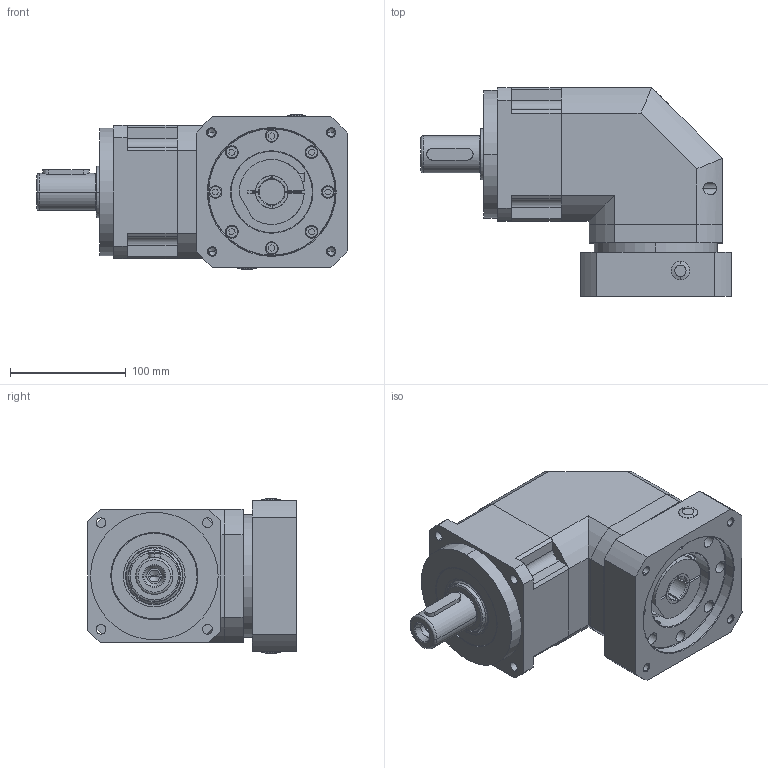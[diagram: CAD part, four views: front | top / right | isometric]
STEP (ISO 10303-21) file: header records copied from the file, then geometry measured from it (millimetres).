
FILE_DESCRIPTION (( 'STEP AP203' ), '1' );
FILE_NAME ('PHFZ115-L1-22-110-145-M8-͹̨12.STEP', '2020-04-24T02:01:06', ( 'ylmfeng' ), ( 'ylmfeng.com' ), 'SwSTEP 2.0', 'SolidWorks 2014', '' );
FILE_SCHEMA (( 'CONFIG_CONTROL_DESIGN' ));
Length unit declared in the file: millimetre
Products named in the file (1): PHFZ115-L1-22-110-145-M8-͹̨12
Bounding box: 267.5 x 180 x 133 mm (x, y, z)
Volume: 2995533.7 mm3; surface area: 307462 mm2
Topology: 32 solids, 32 shells, 835 faces, 1963 edges, 1228 vertices
Faces by surface type: plane 391, cylinder 287, cone 77, torus 50, bspline 26, sphere 4
Entity records: 26971 total; most frequent: CARTESIAN_POINT 7590, DIRECTION 4162, ORIENTED_EDGE 3870, EDGE_CURVE 1935, AXIS2_PLACEMENT_3D 1572, VERTEX_POINT 1228, LINE 1018, VECTOR 1018
